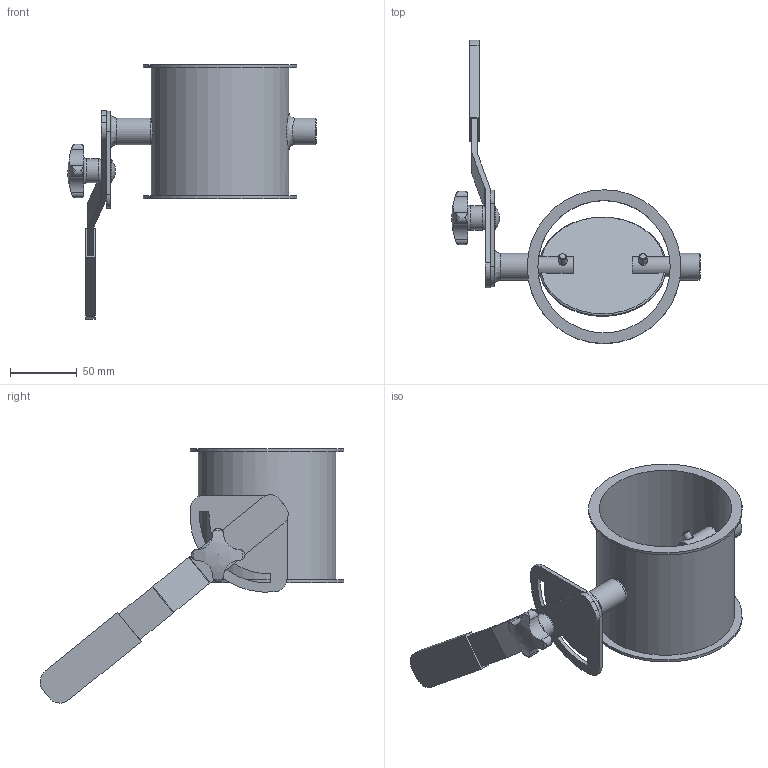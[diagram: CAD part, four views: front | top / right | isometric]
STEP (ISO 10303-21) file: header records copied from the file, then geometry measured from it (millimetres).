
FILE_DESCRIPTION((''),'2;1');
FILE_NAME('U:\Wolfgang\Marcel-3D\fertig\Kapitel 8\1021075.stp','2011-05-03T15:07:05',('TK1'),(''),'Autodesk Inventor 2010','Autodesk Inventor 2010','');
FILE_SCHEMA(('AUTOMOTIVE_DESIGN { 1 0 10303 214 1 1 1 1 }'));
Length unit declared in the file: millimetre
Products named in the file (9): 1021075; 1021075-1; Bolzen D15; Griff D15; Umstellsegment D15; DIN 6912 M6 x 16; ganter_din_6335-ku-40-m8-k; Scheibe100; DIN 603 M6 x 25
Assembly tree (9 placements, depth 2):
  1021075
    1021075-1
    Bolzen D15
    Griff D15
    Umstellsegment D15
    DIN 6912 M6 x 16  x2
    ganter_din_6335-ku-40-m8-k
    Scheibe100
    DIN 603 M6 x 25
Bounding box: 186 x 227.15 x 190.1 mm (x, y, z)
Volume: 171714.9 mm3; surface area: 127523.7 mm2
Topology: 9 solids, 9 shells, 164 faces, 399 edges, 264 vertices
Faces by surface type: plane 75, cylinder 54, cone 16, torus 9, bspline 8, sphere 2
Full cylindrical faces by diameter (mm): 3 x2, 6 x7, 6.4 x1, 7 x1, 10 x4, 13 x1, 14 x2, 15 x4, 16.55 x1, 18 x1, 20 x3, 95 x1, 99 x1, 103 x1, 115 x2
Entity records: 5290 total; most frequent: CARTESIAN_POINT 1809, DIRECTION 686, ORIENTED_EDGE 592, EDGE_CURVE 296, AXIS2_PLACEMENT_3D 290, EDGE_LOOP 229, VERTEX_POINT 221, FACE_OUTER_BOUND 149
